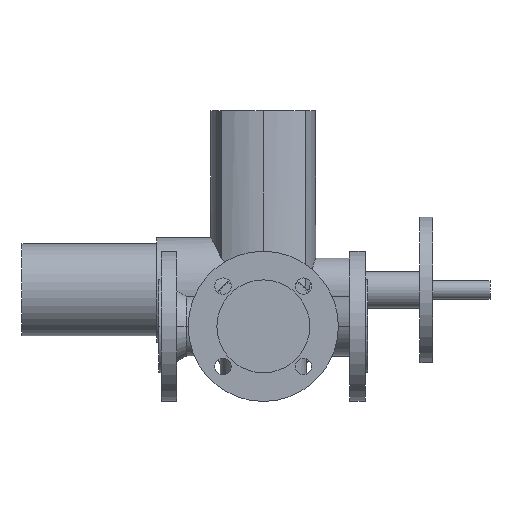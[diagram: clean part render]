
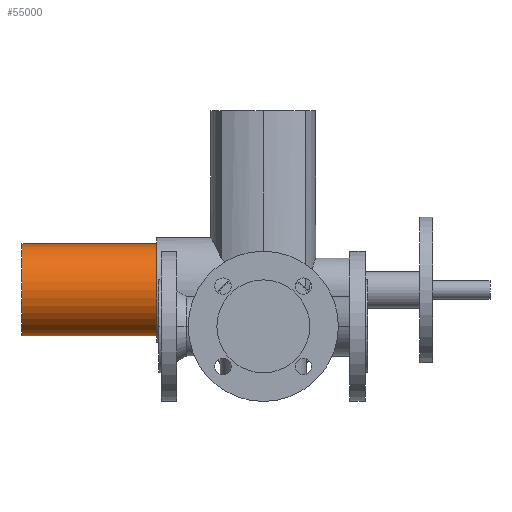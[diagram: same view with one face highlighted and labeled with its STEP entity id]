
A CAD part, front view. The second image highlights one B-rep face of the part: STEP entity #55000.
In plain terms, the highlighted cylindrical face has radius 50.5 mm (diameter 101 mm), a partial arc.
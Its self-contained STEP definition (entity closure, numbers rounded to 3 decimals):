
#54590=CARTESIAN_POINT('',(-76.,607.5,40.));
#54600=DIRECTION('',(1.,0.,0.));
#54610=DIRECTION('',(0.,0.,-1.));
#54620=AXIS2_PLACEMENT_3D('',#54590,#54600,#54610);
#54630=CYLINDRICAL_SURFACE('',#54620,50.5);
#54640=CARTESIAN_POINT('',(-76.,607.5,90.5));
#54650=DIRECTION('',(1.,0.,0.));
#54660=VECTOR('',#54650,1.);
#54670=LINE('',#54640,#54660);
#54680=CARTESIAN_POINT('',(-150.,607.5,90.5));
#54690=VERTEX_POINT('',#54680);
#54700=CARTESIAN_POINT('',(-2.,607.5,90.5));
#54710=VERTEX_POINT('',#54700);
#54720=EDGE_CURVE('',#54690,#54710,#54670,.T.);
#54730=ORIENTED_EDGE('',*,*,#54720,.F.);
#54740=CARTESIAN_POINT('',(-2.,607.5,40.));
#54750=DIRECTION('',(-1.,0.,0.));
#54760=DIRECTION('',(0.,0.,-1.));
#54770=AXIS2_PLACEMENT_3D('',#54740,#54750,#54760);
#54780=CIRCLE('',#54770,50.5);
#54790=CARTESIAN_POINT('',(-2.,607.5,-10.5));
#54800=VERTEX_POINT('',#54790);
#54810=EDGE_CURVE('',#54800,#54710,#54780,.T.);
#54820=ORIENTED_EDGE('',*,*,#54810,.T.);
#54830=CARTESIAN_POINT('',(-76.,607.5,-10.5));
#54840=DIRECTION('',(1.,0.,0.));
#54850=VECTOR('',#54840,1.);
#54860=LINE('',#54830,#54850);
#54870=CARTESIAN_POINT('',(-150.,607.5,-10.5));
#54880=VERTEX_POINT('',#54870);
#54890=EDGE_CURVE('',#54880,#54800,#54860,.T.);
#54900=ORIENTED_EDGE('',*,*,#54890,.T.);
#54910=CARTESIAN_POINT('',(-150.,607.5,40.));
#54920=DIRECTION('',(-1.,0.,0.));
#54930=DIRECTION('',(0.,0.,-1.));
#54940=AXIS2_PLACEMENT_3D('',#54910,#54920,#54930);
#54950=CIRCLE('',#54940,50.5);
#54960=EDGE_CURVE('',#54880,#54690,#54950,.T.);
#54970=ORIENTED_EDGE('',*,*,#54960,.F.);
#54980=EDGE_LOOP('',(#54970,#54900,#54820,#54730));
#54990=FACE_OUTER_BOUND('',#54980,.T.);
#55000=ADVANCED_FACE('',(#54990),#54630,.T.);
